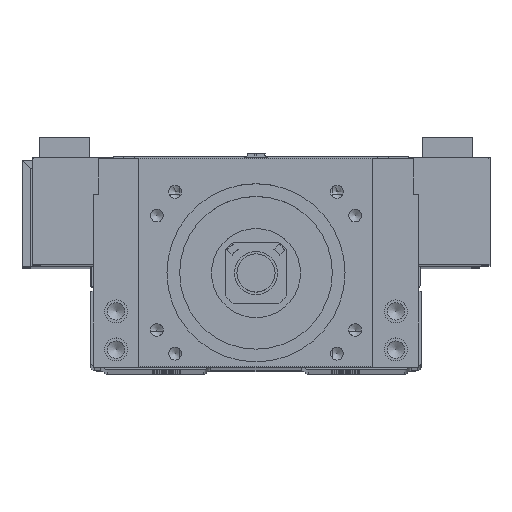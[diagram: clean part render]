
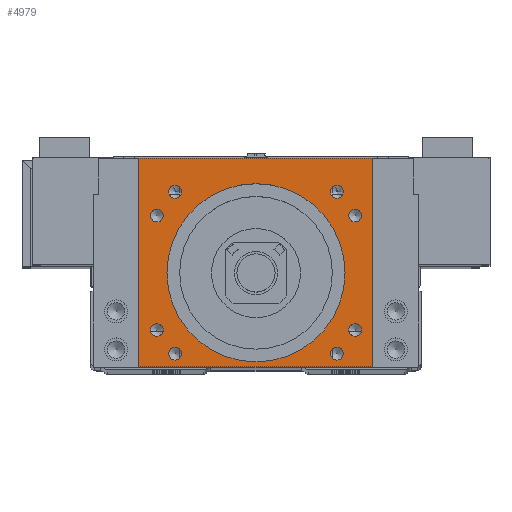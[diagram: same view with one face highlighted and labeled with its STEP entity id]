
A CAD part, top view. The second image highlights one B-rep face of the part: STEP entity #4979.
In plain terms, the highlighted planar face has unit normal (0, 0, 1).
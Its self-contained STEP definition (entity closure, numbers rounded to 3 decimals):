
#1909=FACE_BOUND('',#11195,.T.);
#1910=FACE_BOUND('',#11196,.T.);
#1911=FACE_BOUND('',#11197,.T.);
#1912=FACE_BOUND('',#11198,.T.);
#1913=FACE_BOUND('',#11199,.T.);
#1914=FACE_BOUND('',#11200,.T.);
#1915=FACE_BOUND('',#11201,.T.);
#1916=FACE_BOUND('',#11202,.T.);
#1917=FACE_BOUND('',#11203,.T.);
#1918=FACE_BOUND('',#11204,.T.);
#2926=CIRCLE('',#41659,35.015);
#2927=CIRCLE('',#41661,2.5);
#2928=CIRCLE('',#41662,2.5);
#2929=CIRCLE('',#41663,2.5);
#2930=CIRCLE('',#41664,2.5);
#2931=CIRCLE('',#41665,2.5);
#2932=CIRCLE('',#41666,2.5);
#2933=CIRCLE('',#41667,2.5);
#2934=CIRCLE('',#41668,2.5);
#4979=ADVANCED_FACE('',(#1909,#1910,#1911,#1912,#1913,#1914,#1915,#1916,
#1917,#1918),#7286,.T.);
#7286=PLANE('',#41669);
#11195=EDGE_LOOP('',(#19420,#19421,#19422,#19423));
#11196=EDGE_LOOP('',(#19424));
#11197=EDGE_LOOP('',(#19425));
#11198=EDGE_LOOP('',(#19426));
#11199=EDGE_LOOP('',(#19427));
#11200=EDGE_LOOP('',(#19428));
#11201=EDGE_LOOP('',(#19429));
#11202=EDGE_LOOP('',(#19430));
#11203=EDGE_LOOP('',(#19431));
#11204=EDGE_LOOP('',(#19432));
#19420=ORIENTED_EDGE('',*,*,#29806,.T.);
#19421=ORIENTED_EDGE('',*,*,#29725,.T.);
#19422=ORIENTED_EDGE('',*,*,#29801,.T.);
#19423=ORIENTED_EDGE('',*,*,#29811,.T.);
#19424=ORIENTED_EDGE('',*,*,#29821,.F.);
#19425=ORIENTED_EDGE('',*,*,#29822,.T.);
#19426=ORIENTED_EDGE('',*,*,#29823,.T.);
#19427=ORIENTED_EDGE('',*,*,#29824,.F.);
#19428=ORIENTED_EDGE('',*,*,#29820,.F.);
#19429=ORIENTED_EDGE('',*,*,#29825,.T.);
#19430=ORIENTED_EDGE('',*,*,#29826,.T.);
#19431=ORIENTED_EDGE('',*,*,#29827,.T.);
#19432=ORIENTED_EDGE('',*,*,#29828,.T.);
#24928=VERTEX_POINT('',#61068);
#24929=VERTEX_POINT('',#61070);
#24995=VERTEX_POINT('',#61232);
#24997=VERTEX_POINT('',#61243);
#25003=VERTEX_POINT('',#61269);
#25004=VERTEX_POINT('',#61272);
#25005=VERTEX_POINT('',#61274);
#25006=VERTEX_POINT('',#61276);
#25007=VERTEX_POINT('',#61278);
#25008=VERTEX_POINT('',#61280);
#25009=VERTEX_POINT('',#61282);
#25010=VERTEX_POINT('',#61284);
#25011=VERTEX_POINT('',#61286);
#29725=EDGE_CURVE('',#24929,#24928,#34749,.T.);
#29801=EDGE_CURVE('',#24928,#24995,#34799,.T.);
#29806=EDGE_CURVE('',#24997,#24929,#34804,.T.);
#29811=EDGE_CURVE('',#24995,#24997,#34809,.T.);
#29820=EDGE_CURVE('',#25003,#25003,#2926,.T.);
#29821=EDGE_CURVE('',#25004,#25004,#2927,.T.);
#29822=EDGE_CURVE('',#25005,#25005,#2928,.T.);
#29823=EDGE_CURVE('',#25006,#25006,#2929,.T.);
#29824=EDGE_CURVE('',#25007,#25007,#2930,.T.);
#29825=EDGE_CURVE('',#25008,#25008,#2931,.T.);
#29826=EDGE_CURVE('',#25009,#25009,#2932,.T.);
#29827=EDGE_CURVE('',#25010,#25010,#2933,.T.);
#29828=EDGE_CURVE('',#25011,#25011,#2934,.T.);
#34749=LINE('',#61069,#39085);
#34799=LINE('',#61234,#39135);
#34804=LINE('',#61242,#39140);
#34809=LINE('',#61251,#39145);
#39085=VECTOR('',#49332,1.);
#39135=VECTOR('',#49460,1.);
#39140=VECTOR('',#49471,1.);
#39145=VECTOR('',#49478,1.);
#41659=AXIS2_PLACEMENT_3D('',#61268,#49499,#49500);
#41661=AXIS2_PLACEMENT_3D('',#61271,#49503,#49504);
#41662=AXIS2_PLACEMENT_3D('',#61273,#49505,#49506);
#41663=AXIS2_PLACEMENT_3D('',#61275,#49507,#49508);
#41664=AXIS2_PLACEMENT_3D('',#61277,#49509,#49510);
#41665=AXIS2_PLACEMENT_3D('',#61279,#49511,#49512);
#41666=AXIS2_PLACEMENT_3D('',#61281,#49513,#49514);
#41667=AXIS2_PLACEMENT_3D('',#61283,#49515,#49516);
#41668=AXIS2_PLACEMENT_3D('',#61285,#49517,#49518);
#41669=AXIS2_PLACEMENT_3D('',#61287,#49519,#49520);
#49332=DIRECTION('',(-1.,0.,0.));
#49460=DIRECTION('',(0.,-1.,0.));
#49471=DIRECTION('',(0.,1.,0.));
#49478=DIRECTION('',(1.,0.,0.));
#49499=DIRECTION('',(0.,0.,1.));
#49500=DIRECTION('',(1.,0.,0.));
#49503=DIRECTION('',(0.,0.,1.));
#49504=DIRECTION('',(-1.,0.,0.));
#49505=DIRECTION('',(0.,0.,-1.));
#49506=DIRECTION('',(1.,0.,0.));
#49507=DIRECTION('',(0.,0.,-1.));
#49508=DIRECTION('',(1.,0.,0.));
#49509=DIRECTION('',(0.,0.,1.));
#49510=DIRECTION('',(-1.,0.,0.));
#49511=DIRECTION('',(0.,0.,-1.));
#49512=DIRECTION('',(1.,0.,0.));
#49513=DIRECTION('',(0.,0.,-1.));
#49514=DIRECTION('',(1.,0.,0.));
#49515=DIRECTION('',(0.,0.,-1.));
#49516=DIRECTION('',(1.,0.,0.));
#49517=DIRECTION('',(0.,0.,-1.));
#49518=DIRECTION('',(1.,0.,0.));
#49519=DIRECTION('',(0.,0.,1.));
#49520=DIRECTION('',(-1.,0.,0.));
#61068=CARTESIAN_POINT('',(-46.,83.,100.));
#61069=CARTESIAN_POINT('',(0.,83.,100.));
#61070=CARTESIAN_POINT('',(46.,83.,100.));
#61232=CARTESIAN_POINT('',(-46.,1.,100.));
#61234=CARTESIAN_POINT('',(-46.,38.,100.));
#61242=CARTESIAN_POINT('',(46.,38.,100.));
#61243=CARTESIAN_POINT('',(46.,1.,100.));
#61251=CARTESIAN_POINT('',(0.,1.,100.));
#61268=CARTESIAN_POINT('',(0.,38.,100.));
#61269=CARTESIAN_POINT('',(35.015,38.,100.));
#61271=CARTESIAN_POINT('',(-38.971,15.5,100.));
#61272=CARTESIAN_POINT('',(-41.471,15.5,100.));
#61273=CARTESIAN_POINT('',(38.971,60.5,100.));
#61274=CARTESIAN_POINT('',(41.471,60.5,100.));
#61275=CARTESIAN_POINT('',(38.971,15.5,100.));
#61276=CARTESIAN_POINT('',(41.471,15.5,100.));
#61277=CARTESIAN_POINT('',(-38.971,60.5,100.));
#61278=CARTESIAN_POINT('',(-41.471,60.5,100.));
#61279=CARTESIAN_POINT('',(-31.82,69.82,100.));
#61280=CARTESIAN_POINT('',(-29.32,69.82,100.));
#61281=CARTESIAN_POINT('',(-31.82,6.18,100.));
#61282=CARTESIAN_POINT('',(-29.32,6.18,100.));
#61283=CARTESIAN_POINT('',(31.82,6.18,100.));
#61284=CARTESIAN_POINT('',(34.32,6.18,100.));
#61285=CARTESIAN_POINT('',(31.82,69.82,100.));
#61286=CARTESIAN_POINT('',(34.32,69.82,100.));
#61287=CARTESIAN_POINT('',(0.,38.,100.));
